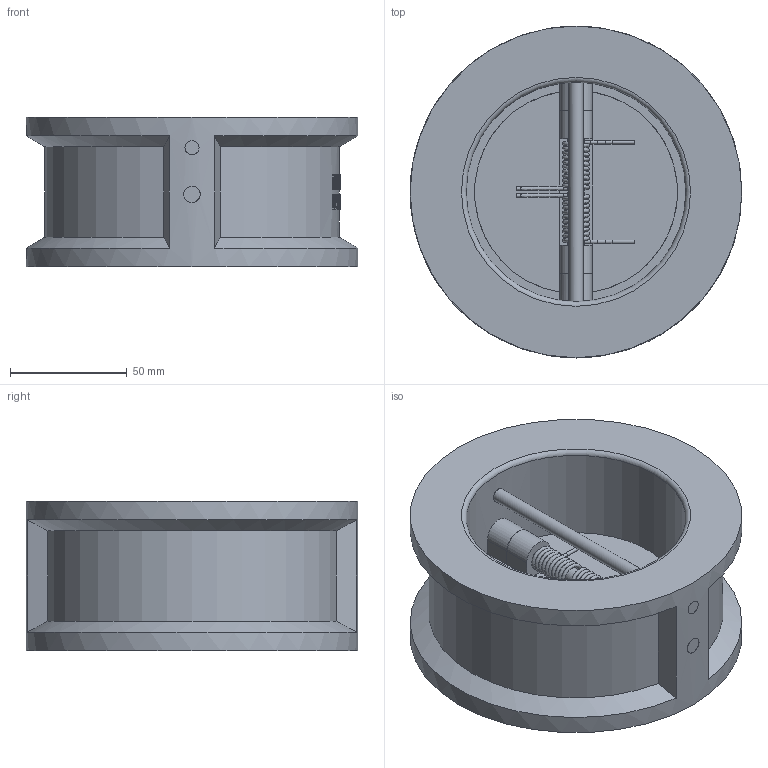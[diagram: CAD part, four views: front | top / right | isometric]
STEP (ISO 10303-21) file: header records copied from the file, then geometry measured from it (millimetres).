
FILE_DESCRIPTION( ( 'Unknown' ), '1' );
FILE_NAME( 'C:/Documents and Settings/Klaus/My Documents/Rootsi BPS 3D, Klaus/BPS 6525 double-door swing check valve/STEP/BPS6525080 double door swing check valve DN80.stp', 'Unknown', ( 'Unknown' ), ( 'Unknown' ), 'PSStep 10.1', 'Unknown', ' ' );
FILE_SCHEMA( ( 'AUTOMOTIVE_DESIGN { 1 0 10303 214 1 1 1 1 }' ) );
Length unit declared in the file: millimetre
Products named in the file (3): 1; 2; 3
Bounding box: 142 x 142 x 64 mm (x, y, z)
Volume: 558705.3 mm3; surface area: 88471 mm2
Topology: 3 solids, 3 shells, 263 faces, 607 edges, 390 vertices
Faces by surface type: plane 101, bspline 87, cylinder 62, torus 7, cone 6
Full cylindrical faces by diameter (mm): 1.5 x6, 6 x1, 7 x3, 86.8 x1, 94 x1, 142 x1
Entity records: 21135 total; most frequent: CARTESIAN_POINT 14226, ORIENTED_EDGE 1124, DIRECTION 582, EDGE_CURVE 562, B_SPLINE_CURVE_WITH_KNOTS 408, VERTEX_POINT 382, EDGE_LOOP 352, FACE_OUTER_BOUND 299
